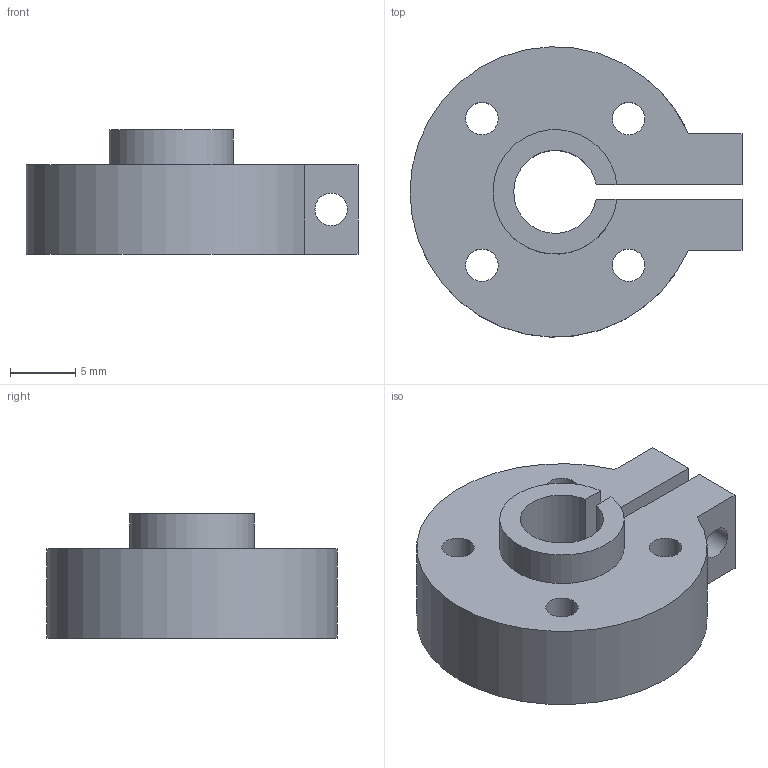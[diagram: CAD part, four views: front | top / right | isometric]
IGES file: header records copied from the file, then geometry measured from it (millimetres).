
Global section: file name: No Iges File Name specified; native system: AutoDesk Inventor R6.0; preprocessor: AutoDesk Inventor Iges Exporter R6.0; author: No Author specified; organization: No Organization specified; date: 20080103.175506; units: inch
Bounding box: 25.4 x 22.21 x 9.53 mm (x, y, z)
Surface area: 1918.1 mm2 (no closed solid volume)
Topology: 0 solids, 0 shells, 19 faces, 101 edges, 95 vertices
Faces by surface type: plane 9, bspline 7, revolution 3
